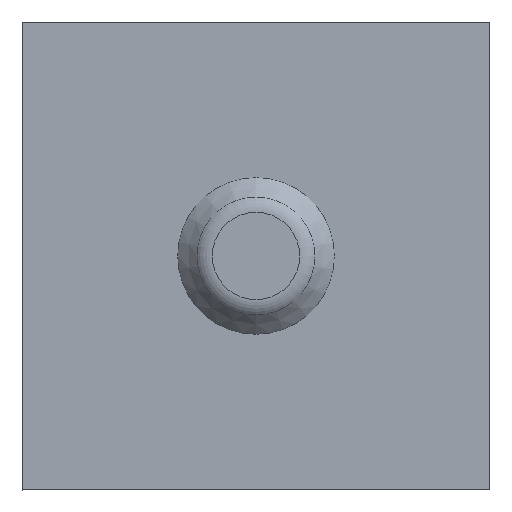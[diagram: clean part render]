
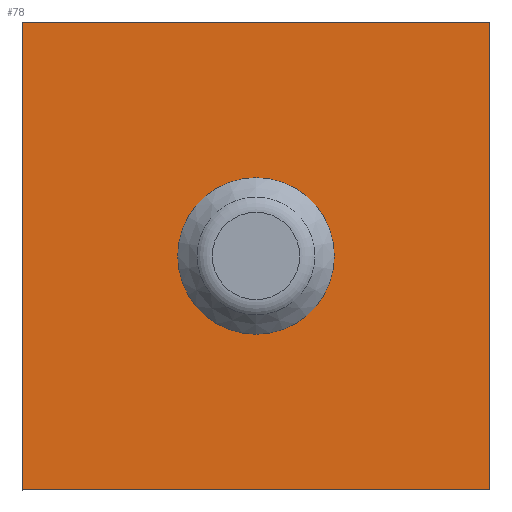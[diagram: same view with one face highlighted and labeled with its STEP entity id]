
A CAD part, top view. The second image highlights one B-rep face of the part: STEP entity #78.
In plain terms, the highlighted planar face has unit normal (0, 0, 1).
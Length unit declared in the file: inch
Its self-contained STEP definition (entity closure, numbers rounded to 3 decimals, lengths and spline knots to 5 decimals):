
#78=ADVANCED_FACE('',(#95,#96),#97,.T.);
#95=FACE_OUTER_BOUND('',#125,.T.);
#96=FACE_BOUND('',#126,.T.);
#97=PLANE('',#127);
#125=EDGE_LOOP('',(#170,#171,#172,#173));
#126=EDGE_LOOP('',(#174));
#127=AXIS2_PLACEMENT_3D('',#175,#176,#177);
#170=ORIENTED_EDGE('',*,*,#220,.T.);
#171=ORIENTED_EDGE('',*,*,#230,.T.);
#172=ORIENTED_EDGE('',*,*,#231,.T.);
#173=ORIENTED_EDGE('',*,*,#228,.T.);
#174=ORIENTED_EDGE('',*,*,#232,.F.);
#175=CARTESIAN_POINT('',(0.0,0.0,3.9695));
#176=DIRECTION('',(0.0,-0.0,1.0));
#177=DIRECTION('',(0.,1.0,0.0));
#220=EDGE_CURVE('',#238,#239,#240,.T.);
#228=EDGE_CURVE('',#253,#238,#254,.T.);
#230=EDGE_CURVE('',#239,#256,#257,.T.);
#231=EDGE_CURVE('',#256,#253,#258,.T.);
#232=EDGE_CURVE('',#259,#259,#260,.T.);
#238=VERTEX_POINT('',#270);
#239=VERTEX_POINT('',#271);
#240=LINE('',#272,#273);
#253=VERTEX_POINT('',#292);
#254=LINE('',#293,#294);
#256=VERTEX_POINT('',#297);
#257=LINE('',#298,#299);
#258=LINE('',#300,#301);
#259=VERTEX_POINT('',#302);
#260=CIRCLE('',#303,0.33444);
#270=CARTESIAN_POINT('',(-1.5,-9.55,3.9695));
#271=CARTESIAN_POINT('',(0.5,-9.55,3.9695));
#272=CARTESIAN_POINT('',(8944.46337,-9.55,3.9695));
#273=VECTOR('',#314,1.0);
#292=CARTESIAN_POINT('',(-1.5,-7.55,3.9695));
#293=CARTESIAN_POINT('',(-1.5,15207.77176,3.9695));
#294=VECTOR('',#324,1.0);
#297=CARTESIAN_POINT('',(0.5,-7.55,3.9695));
#298=CARTESIAN_POINT('',(0.5,7014.16495,3.9695));
#299=VECTOR('',#326,1.0);
#300=CARTESIAN_POINT('',(41551.01962,-7.55,3.9695));
#301=VECTOR('',#327,1.0);
#302=CARTESIAN_POINT('',(-0.5,-8.21556,3.9695));
#303=AXIS2_PLACEMENT_3D('',#328,#329,#330);
#314=DIRECTION('',(1.0,0.0,0.0));
#324=DIRECTION('',(0.0,-1.0,0.0));
#326=DIRECTION('',(0.0,1.0,0.0));
#327=DIRECTION('',(-1.0,0.0,0.0));
#328=CARTESIAN_POINT('',(-0.5,-8.55,3.9695));
#329=DIRECTION('',(0.0,-0.0,1.0));
#330=DIRECTION('',(0.,1.0,0.0));
